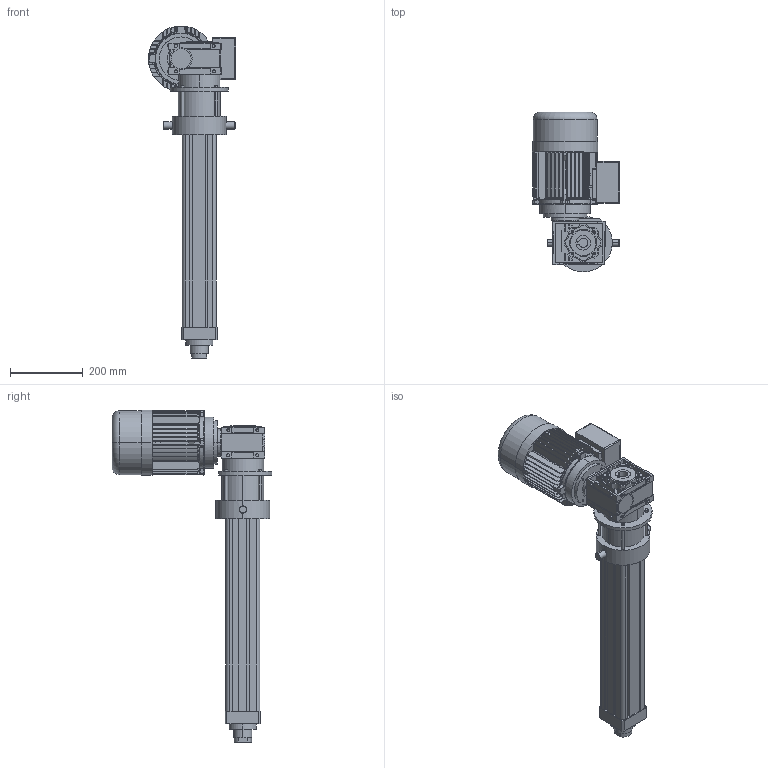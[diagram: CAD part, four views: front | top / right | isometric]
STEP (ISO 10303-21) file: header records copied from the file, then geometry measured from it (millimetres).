
FILE_DESCRIPTION (( 'STEP AP214' ), '1' );
FILE_NAME ('Ass RV80 TR C400.STEP', '2017-01-03T16:23:59', ( 'Hubert' ), ( '' ), 'SwSTEP 2.0', 'SolidWorks 2014', '' );
FILE_SCHEMA (( 'AUTOMOTIVE_DESIGN' ));
Length unit declared in the file: millimetre
Products named in the file (9): PAAR RV 80 B160; Ass RV80 TR C400; PAAV 80 D; Profilé MRRV80 TR C400; Tube MR 80 TR C400; Ass CHM50_FC MOT 90; _AT_90_LB_4_B14__230-400-50_AC.3d1; _CHM_50_FC_2_7,5_80_B14_B3.3d; Vis MRRV80 TR C400
Assembly tree (8 placements, depth 3):
  Ass RV80 TR C400
    PAAR RV 80 B160
    Vis MRRV80 TR C400
    Ass CHM50_FC MOT 90
      _CHM_50_FC_2_7,5_80_B14_B3.3d
      _AT_90_LB_4_B14__230-400-50_AC.3d1
    Tube MR 80 TR C400
    Profilé MRRV80 TR C400
    PAAV 80 D
Bounding box: 239.99 x 440.08 x 914 mm (x, y, z)
Volume: 11108792.9 mm3; surface area: 1482105.8 mm2
Topology: 7 solids, 16 shells, 1089 faces, 3181 edges, 2145 vertices
Faces by surface type: plane 467, cylinder 414, cone 159, bspline 47, torus 2
Entity records: 53534 total; most frequent: CARTESIAN_POINT 14461, ORIENTED_EDGE 6286, DIRECTION 5228, EDGE_CURVE 3143, VERTEX_POINT 2145, AXIS2_PLACEMENT_3D 1827, VECTOR 1574, LINE 1574
